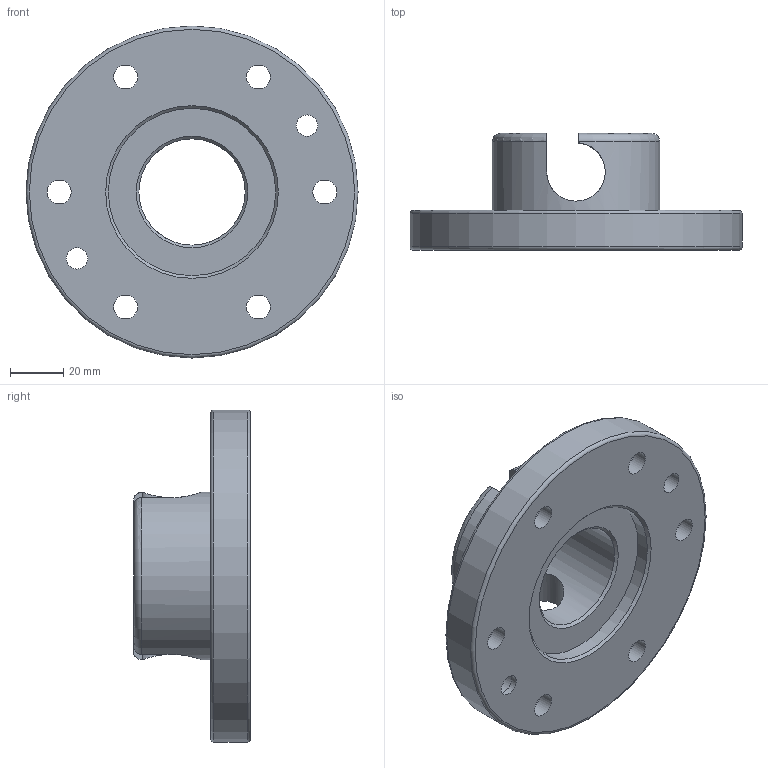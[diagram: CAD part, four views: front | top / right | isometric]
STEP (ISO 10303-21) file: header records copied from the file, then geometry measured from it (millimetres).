
FILE_DESCRIPTION((''),'2;1');
FILE_NAME('T:\CAD\Standard\Daten\3D-Datenbank\MGW\MGW125\step-Daten\G-MGW125-2U.stp','2011-05-12T11:30:27',('Yvonne'),(''),'Autodesk Inventor 2011','Autodesk Inventor 2011','');
FILE_SCHEMA(('AUTOMOTIVE_DESIGN { 1 0 10303 214 1 1 1 1 }'));
Length unit declared in the file: millimetre
Products named in the file (1): G-MGW125-4
Bounding box: 125 x 44 x 125 mm (x, y, z)
Volume: 182885.9 mm3; surface area: 41672.8 mm2
Topology: 1 solids, 1 shells, 46 faces, 106 edges, 69 vertices
Faces by surface type: cylinder 21, plane 15, cone 6, torus 4
Full cylindrical faces by diameter (mm): 8 x2, 9 x6, 10.1 x1, 15 x6, 40 x1, 63 x2, 125 x1
Entity records: 1352 total; most frequent: CARTESIAN_POINT 349, DIRECTION 208, ORIENTED_EDGE 154, AXIS2_PLACEMENT_3D 96, EDGE_LOOP 96, EDGE_CURVE 77, VERTEX_POINT 65, FACE_BOUND 50
